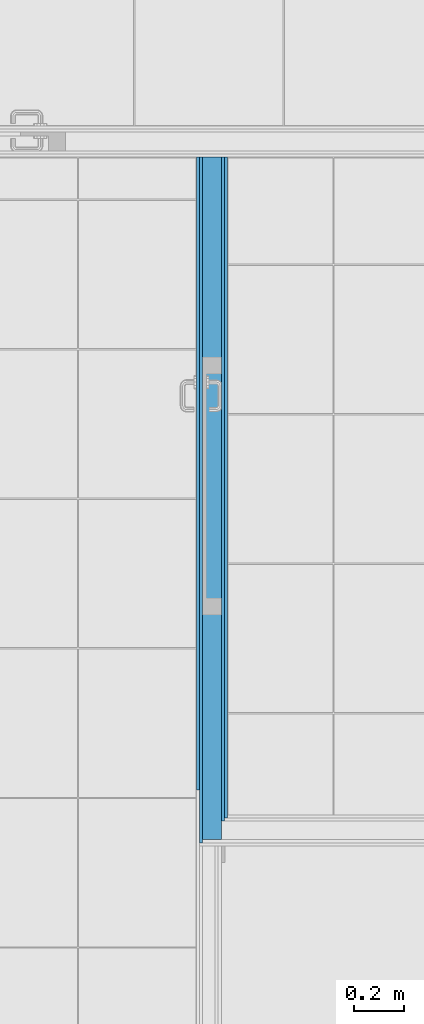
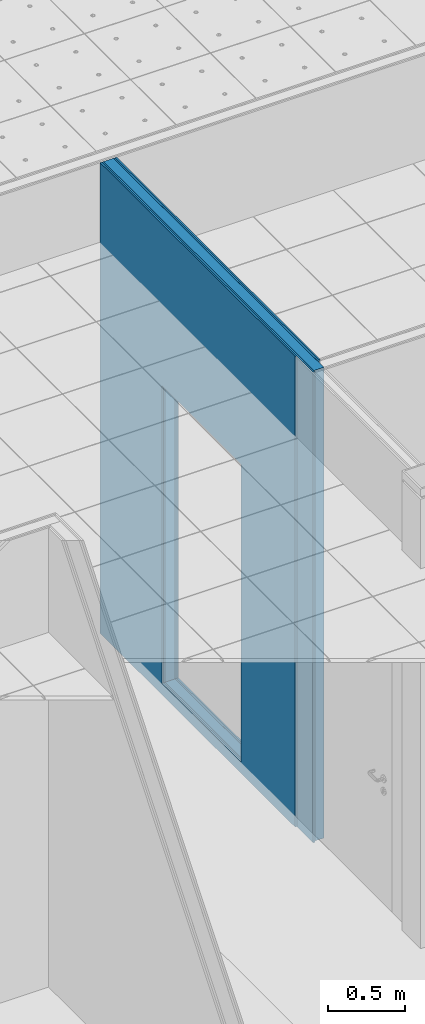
# One storey, part 28 of 338: 5 building element parts, 1 opening, 1 element without a shape of its own.
"""IFC2X3 building model written with IfcOpenShell, lengths in millimetres."""

from ifc_helpers import new_model, entity, si_unit, converted_unit, derived_unit, money_unit, direction, frame, origin_with_axes, place, context, subcontext, project, spatial, faceted_brep, material, type_object, element, aggregate, save


model = new_model("IFC2X3")

# Units and contexts
model_context = context("Model", 3, precision=0.01, world=origin_with_axes(), true_north=direction((0.0, 1.0)))
plan_context = context("Plan", 3, precision=0.01, world=origin_with_axes(), true_north=direction((0.0, 1.0)))
body_context = subcontext(model_context, "Body", "Model", "MODEL_VIEW")
ifc_project = project(units=[si_unit("LENGTHUNIT", "METRE", prefix="MILLI"), si_unit("AREAUNIT", "SQUARE_METRE"), si_unit("VOLUMEUNIT", "CUBIC_METRE"), converted_unit("PLANEANGLEUNIT", "DEGREE", entity("IfcPlaneAngleMeasure", 0.0174532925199), si_unit("PLANEANGLEUNIT", "RADIAN"), dimensions=[0, 0, 0, 0, 0, 0, 0]), money_unit("EUR"), converted_unit("TIMEUNIT", "Year", entity("IfcTimeMeasure", 31556926.0), si_unit("TIMEUNIT", "SECOND"), dimensions=[0, 0, 1, 0, 0, 0, 0]), si_unit("MASSUNIT", "GRAM", prefix="KILO"), si_unit("THERMODYNAMICTEMPERATUREUNIT", "DEGREE_CELSIUS"), si_unit("LUMINOUSINTENSITYUNIT", "LUMEN"), si_unit("ENERGYUNIT", "JOULE", prefix="MEGA"), derived_unit("THERMALCONDUCTANCEUNIT", [(si_unit("POWERUNIT", "WATT"), 1), (si_unit("LENGTHUNIT", "METRE"), -1), (si_unit("THERMODYNAMICTEMPERATUREUNIT", "KELVIN"), -1)]), derived_unit("SPECIFICHEATCAPACITYUNIT", [(si_unit("ENERGYUNIT", "JOULE"), 1), (si_unit("MASSUNIT", "GRAM", prefix="KILO"), -1), (si_unit("THERMODYNAMICTEMPERATUREUNIT", "KELVIN"), -1)]), derived_unit("MASSDENSITYUNIT", [(si_unit("MASSUNIT", "GRAM", prefix="KILO"), 1), (si_unit("VOLUMEUNIT", "CUBIC_METRE"), -1)])], contexts=[model_context, plan_context])

# Site, building, storey
site_placement = place(None, origin_with_axes())
site = spatial("IfcSite", under=ifc_project, at=site_placement, Name="Fortuinstraat Woensdrecht", CompositionType="ELEMENT")
building_placement = place(site_placement, origin_with_axes())
building = spatial("IfcBuilding", under=site, at=building_placement, Name="IKC Fortuna", CompositionType="ELEMENT")
storey_placement = place(building_placement, origin_with_axes())
storey = spatial("IfcBuildingStorey", under=building, at=storey_placement, Name="00 begane grond", CompositionType="ELEMENT", Elevation=0.0)

# Wall, opening, building element parts
wall_type = type_object("IfcWallType", Name="MS125 2.75.2A 125", PredefinedType="NOTDEFINED")
wall_placement = place(storey_placement, frame((25544.310763, 28132.40257, -90.0), z_axis=(0.0, 0.0, 1.0), x_axis=(0.0, -1.0, 0.0)))
wall = element("IfcWall", 1, at=wall_placement, inside=storey, type_object=wall_type, Name="22_Wand_Binnenwand")
opening_placement = place(wall_placement, frame((1319.80886427, 0.0, 90.0), z_axis=(0.0, 0.0, 1.0), x_axis=(1.0, 0.0, 0.0)))
element("IfcOpeningElement", 2, at=opening_placement, cuts=wall, Name="32_Deur_h.01b", context=body_context, shape_type="Brep", body=[
    faceted_brep([(517.0, -250.0, 2367.0), (517.0, -250.0, 0.0), (517.0, 125.0, 0.0), (517.0, 125.0, 2367.0), (-517.0, -250.0, 2367.0), (-517.0, -250.0, 0.0), (-517.0, 125.0, 0.0), (-517.0, 125.0, 2367.0)], [[[0, 1, 2, 3]], [[0, 4, 5, 1]], [[1, 5, 6, 2]], [[3, 2, 6, 7]], [[4, 0, 3, 7]], [[5, 4, 7, 6]]]),
])
ifc_material_1 = material(Name="Gipsplaat")
building_element_part_1_placement = place(wall_placement, origin_with_axes())
building_element_part_1 = element("IfcBuildingElementPart", 3, at=building_element_part_1_placement, material=ifc_material_1, Name="Gipsplaat", context=body_context, shape_type="Brep", body=[
    faceted_brep([(0.0, 112.5, 0.0), (2651.80886427, 112.5, 0.0), (2651.80886427, 112.5, 3740.0), (0.0, 112.5, 3740.0), (1836.80886427, 112.5, 90.0), (802.808864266, 112.5, 90.0), (802.808864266, 112.5, 2457.0), (1836.80886427, 112.5, 2457.0), (0.0, 125.0, 0.0), (2651.80886427, 125.0, 0.0), (2651.80886427, 125.0, 3740.0), (0.0, 125.0, 3740.0), (1836.80886427, 125.0, 90.0), (802.808864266, 125.0, 90.0), (802.808864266, 125.0, 2457.0), (1836.80886427, 125.0, 2457.0)], [[[0, 1, 2, 3], [4, 5, 6, 7]], [[8, 9, 1, 0]], [[10, 2, 1, 9]], [[3, 2, 10, 11]], [[11, 8, 0, 3]], [[12, 13, 5, 4]], [[13, 14, 6, 5]], [[14, 15, 7, 6]], [[15, 12, 4, 7]], [[11, 10, 9, 8], [12, 15, 14, 13]]]),
])
building_element_part_2_placement = place(wall_placement, origin_with_axes())
building_element_part_2 = element("IfcBuildingElementPart", 4, at=building_element_part_2_placement, material=ifc_material_1, Name="Gipsplaat", context=body_context, shape_type="Brep", body=[
    faceted_brep([(0.0, 100.0, 0.0), (2664.30886427, 100.0, 0.0), (2664.30886427, 100.0, 3740.0), (0.0, 100.0, 3740.0), (1836.80886427, 100.0, 90.0), (802.808864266, 100.0, 90.0), (802.808864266, 100.0, 2457.0), (1836.80886427, 100.0, 2457.0), (0.0, 112.5, 0.0), (2664.30886427, 112.5, 0.0), (2664.30886427, 112.5, 3740.0), (0.0, 112.5, 3740.0), (1836.80886427, 112.5, 90.0), (802.808864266, 112.5, 90.0), (802.808864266, 112.5, 2457.0), (1836.80886427, 112.5, 2457.0)], [[[0, 1, 2, 3], [4, 5, 6, 7]], [[8, 9, 1, 0]], [[10, 2, 1, 9]], [[3, 2, 10, 11]], [[11, 8, 0, 3]], [[12, 13, 5, 4]], [[13, 14, 6, 5]], [[14, 15, 7, 6]], [[15, 12, 4, 7]], [[11, 10, 9, 8], [12, 15, 14, 13]]]),
])
ifc_material_2 = material(Name="Isolatie - Steenwol LSW")
building_element_part_3_placement = place(wall_placement, origin_with_axes())
building_element_part_3 = element("IfcBuildingElementPart", 5, at=building_element_part_3_placement, material=ifc_material_2, Name="Isolatie - Steenwol LSW", context=body_context, shape_type="Brep", body=[
    faceted_brep([(0.0, 25.0, 0.0), (2739.30886427, 25.0, 0.0), (2739.30886427, 25.0, 3740.0), (0.0, 25.0, 3740.0), (1836.80886427, 25.0, 90.0), (802.808864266, 25.0, 90.0), (802.808864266, 25.0, 2457.0), (1836.80886427, 25.0, 2457.0), (0.0, 100.0, 0.0), (2739.30886427, 100.0, 0.0), (2739.30886427, 100.0, 3740.0), (0.0, 100.0, 3740.0), (1836.80886427, 100.0, 90.0), (802.808864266, 100.0, 90.0), (802.808864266, 100.0, 2457.0), (1836.80886427, 100.0, 2457.0)], [[[0, 1, 2, 3], [4, 5, 6, 7]], [[8, 9, 1, 0]], [[10, 2, 1, 9]], [[3, 2, 10, 11]], [[11, 8, 0, 3]], [[12, 13, 5, 4]], [[13, 14, 6, 5]], [[14, 15, 7, 6]], [[15, 12, 4, 7]], [[11, 10, 9, 8], [12, 15, 14, 13]]]),
])
building_element_part_4_placement = place(wall_placement, origin_with_axes())
building_element_part_4 = element("IfcBuildingElementPart", 6, at=building_element_part_4_placement, material=ifc_material_1, Name="Gipsplaat", context=body_context, shape_type="Brep", body=[
    faceted_brep([(0.0, 12.5, 0.0), (2751.80886427, 12.5, 0.0), (2751.80886427, 12.5, 3740.0), (0.0, 12.5, 3740.0), (1836.80886427, 12.5, 90.0), (802.808864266, 12.5, 90.0), (802.808864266, 12.5, 2457.0), (1836.80886427, 12.5, 2457.0), (0.0, 25.0, 0.0), (2751.80886427, 25.0, 0.0), (2751.80886427, 25.0, 3740.0), (0.0, 25.0, 3740.0), (1836.80886427, 25.0, 90.0), (802.808864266, 25.0, 90.0), (802.808864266, 25.0, 2457.0), (1836.80886427, 25.0, 2457.0)], [[[0, 1, 2, 3], [4, 5, 6, 7]], [[8, 9, 1, 0]], [[10, 2, 1, 9]], [[3, 2, 10, 11]], [[11, 8, 0, 3]], [[12, 13, 5, 4]], [[13, 14, 6, 5]], [[14, 15, 7, 6]], [[15, 12, 4, 7]], [[11, 10, 9, 8], [12, 15, 14, 13]]]),
])
building_element_part_5_placement = place(wall_placement, origin_with_axes())
building_element_part_5 = element("IfcBuildingElementPart", 7, at=building_element_part_5_placement, material=ifc_material_1, Name="Gipsplaat", context=body_context, shape_type="Brep", body=[
    faceted_brep([(2539.30886427, 0.0, 3740.0), (0.0, 0.0, 3740.0), (0.0, 0.0, 0.0), (2539.30886427, 0.0, 0.0), (1836.80886427, 0.0, 90.0), (802.808864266, 0.0, 90.0), (802.808864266, 0.0, 2457.0), (1836.80886427, 0.0, 2457.0), (2539.30886427, 12.5, 3740.0), (0.0, 12.5, 3740.0), (0.0, 12.5, 0.0), (2539.30886427, 12.5, 0.0), (1836.80886427, 12.5, 90.0), (802.808864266, 12.5, 90.0), (802.808864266, 12.5, 2457.0), (1836.80886427, 12.5, 2457.0)], [[[0, 1, 2, 3], [4, 5, 6, 7]], [[8, 9, 1, 0]], [[9, 10, 2, 1]], [[3, 2, 10, 11]], [[8, 0, 3, 11]], [[12, 13, 5, 4]], [[13, 14, 6, 5]], [[14, 15, 7, 6]], [[15, 12, 4, 7]], [[11, 10, 9, 8], [12, 15, 14, 13]]]),
])
aggregate(wall, [building_element_part_1, building_element_part_2, building_element_part_3, building_element_part_4, building_element_part_5])

save(model, "model.ifc")
